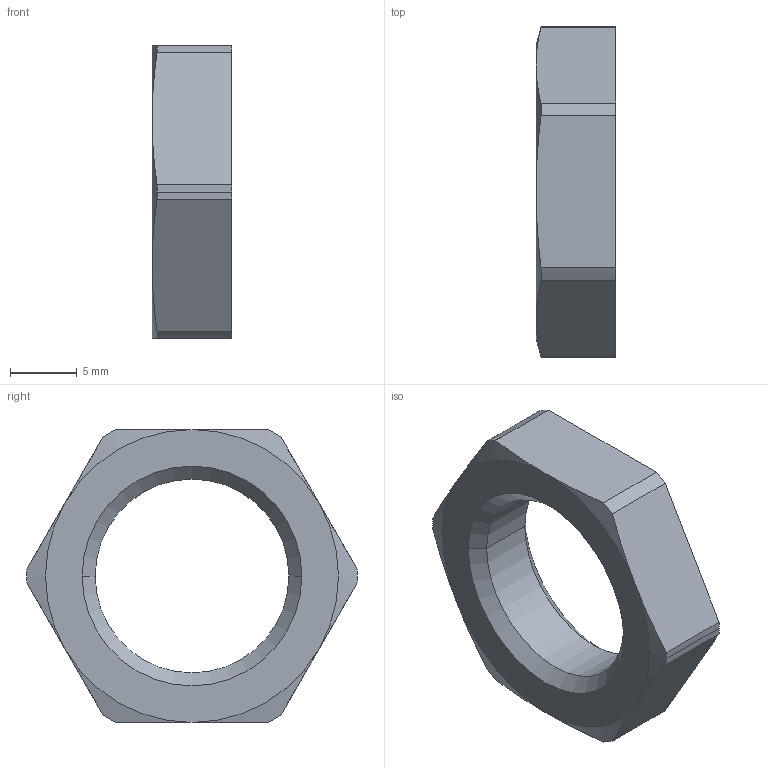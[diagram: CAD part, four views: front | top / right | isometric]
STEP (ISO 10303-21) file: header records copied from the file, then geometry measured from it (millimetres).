
FILE_DESCRIPTION((''),'2;1');
FILE_NAME('108706.0.stp','2007-11-06T08:53:19',(''),(''),'AutoCAD STEP 2000i','AutoCAD 2000i',', , ');
FILE_SCHEMA(('CONFIG_CONTROL_DESIGN'));
Length unit declared in the file: millimetre
Products named in the file (2): 108706.0; CHIAVE SMUSSX1036#0
Assembly tree (1 placements, depth 2):
  108706.0
    CHIAVE SMUSSX1036#0
Bounding box: 6 x 24.8 x 22 mm (x, y, z)
Volume: 1461.1 mm3; surface area: 1169.7 mm2
Topology: 1 solids, 1 shells, 28 faces, 68 edges, 42 vertices
Faces by surface type: cylinder 10, cone 10, plane 8
Entity records: 923 total; most frequent: CARTESIAN_POINT 164, DIRECTION 146, ORIENTED_EDGE 136, EDGE_CURVE 68, AXIS2_PLACEMENT_3D 60, VERTEX_POINT 42, CIRCLE 30, EDGE_LOOP 30
